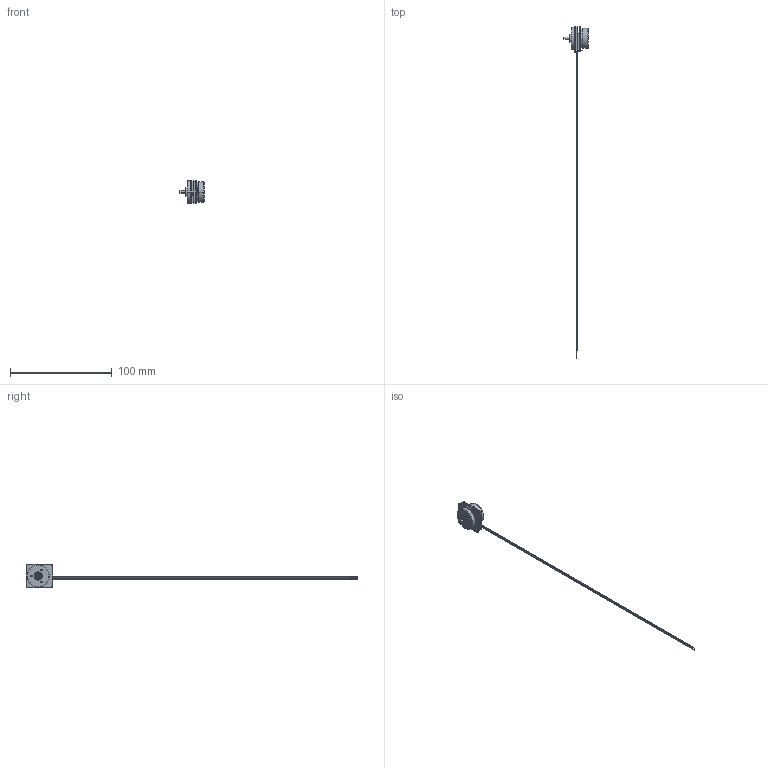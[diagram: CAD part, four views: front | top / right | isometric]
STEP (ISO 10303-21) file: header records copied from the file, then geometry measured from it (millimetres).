
FILE_DESCRIPTION((''),'2;1');
FILE_NAME('1009430','2016-10-10T',('mmagpetk'),(''),'CREO PARAMETRIC BY PTC INC, 2016050','CREO PARAMETRIC BY PTC INC, 2016050','');
FILE_SCHEMA(('CONFIG_CONTROL_DESIGN'));
Length unit declared in the file: millimetre
Products named in the file (1): 1009430
Bounding box: 24.5 x 325.5 x 23 mm (x, y, z)
Volume: 7081.9 mm3; surface area: 4822.2 mm2
Topology: 1 solids, 1 shells, 114 faces, 254 edges, 159 vertices
Faces by surface type: cylinder 56, plane 40, torus 12, cone 6
Entity records: 3260 total; most frequent: DIRECTION 612, CARTESIAN_POINT 521, ORIENTED_EDGE 496, AXIS2_PLACEMENT_3D 250, EDGE_CURVE 248, VERTEX_POINT 159, EDGE_LOOP 137, CIRCLE 136
